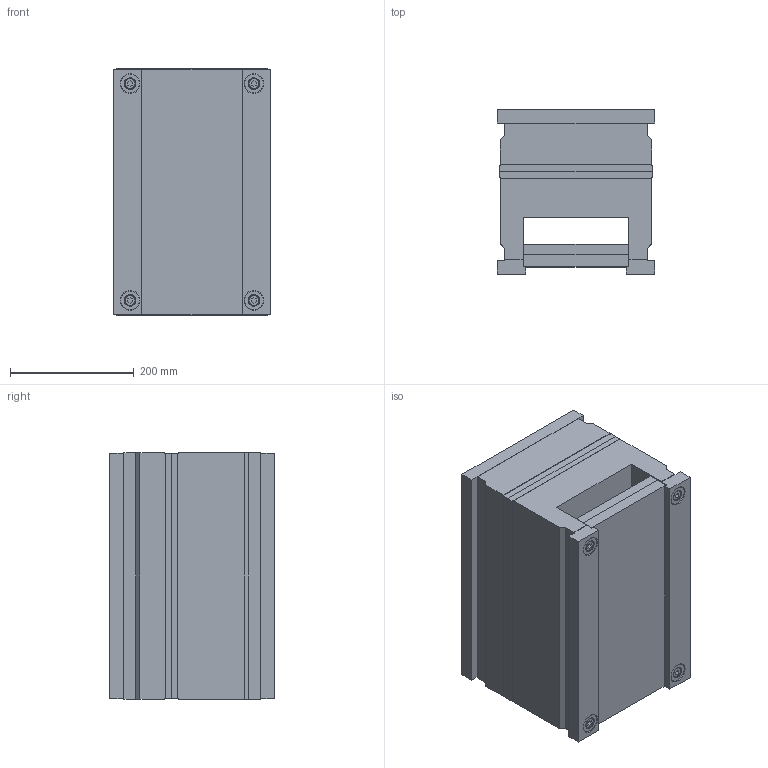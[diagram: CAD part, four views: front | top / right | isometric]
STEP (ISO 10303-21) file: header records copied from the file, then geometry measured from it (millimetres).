
FILE_DESCRIPTION (( 'STEP AP214' ), '1' );
FILE_NAME ('2464.STEP', '2002-07-10T07:54:35', ( 'Simcha Kilim' ), ( 'K. Plastics Engineering' ), 'SwSTEP 2.0', 'SolidWorks 2002025', '' );
FILE_SCHEMA (( 'AUTOMOTIVE_DESIGN' ));
Length unit declared in the file: millimetre
Products named in the file (12): 2464; ALMO (ejector half)_2464; ALMO (hot half)_2464; ALMO (guide bush)_Ø18; ALMO (guide bush)_Ø19; ALMO (ejector plate)_2464; ALMO (ejector return plate)_2464; ALMO (screw)_M10x70; ALMO (key plate)_Ø18; ALMO (guide pin)_Ø19; ALMO (screw)_M10x120; ALMO (guide pin)_Ø18
Assembly tree (28 placements, depth 2):
  2464
    ALMO (ejector plate)_2464
    ALMO (screw)_M10x70  x4
    ALMO (guide bush)_Ø18  x3
    ALMO (key plate)_Ø18  x8
    ALMO (guide pin)_Ø18  x3
    ALMO (hot half)_2464
    ALMO (screw)_M10x120  x4
    ALMO (guide bush)_Ø19
    ALMO (guide pin)_Ø19
    ALMO (ejector return plate)_2464
    ALMO (ejector half)_2464
Bounding box: 255 x 266 x 398 mm (x, y, z)
Volume: 21801269.1 mm3; surface area: 1302202.2 mm2
Topology: 28 solids, 28 shells, 706 faces, 1496 edges, 924 vertices
Faces by surface type: cylinder 260, plane 254, cone 192
Entity records: 10477 total; most frequent: DIRECTION 1914, CARTESIAN_POINT 1683, ORIENTED_EDGE 1584, EDGE_CURVE 792, AXIS2_PLACEMENT_3D 729, VERTEX_POINT 498, LINE 456, VECTOR 456
